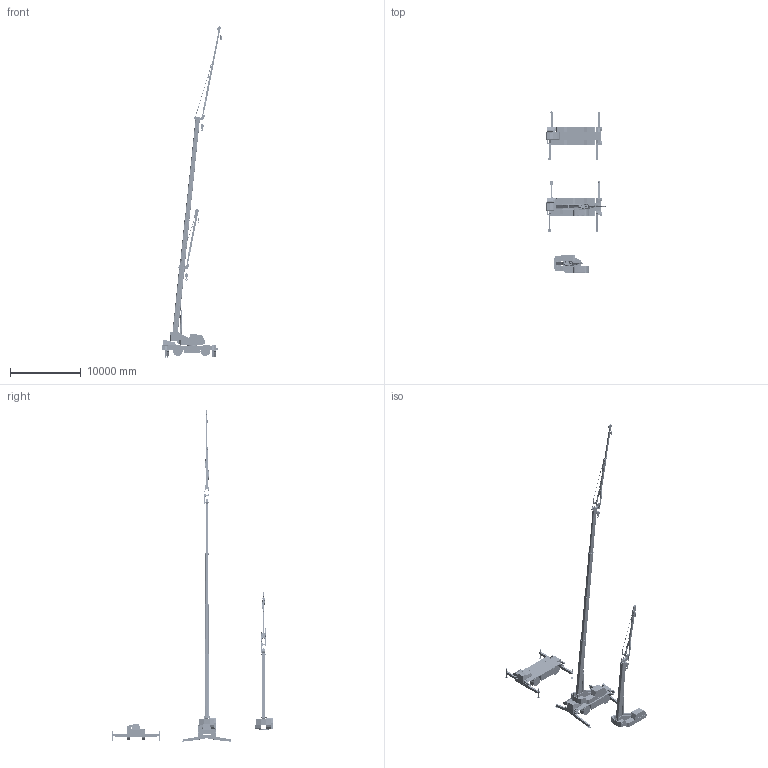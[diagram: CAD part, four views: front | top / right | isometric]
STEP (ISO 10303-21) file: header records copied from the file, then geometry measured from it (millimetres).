
FILE_DESCRIPTION(('CATIA V5 STEP'),'2;1');
FILE_NAME('D:\ENOVIA\Work\GR-250N-5_AP203iso.stp','2021-08-25T04:11:06+00:00',('TDN'),('TADANO'),'CATIA Version 5-6 Release 2018 SP2 HF38','CATIA V5 STEP AP203','none');
FILE_SCHEMA(('CONFIG_CONTROL_DESIGN'));
Products named in the file (9): GR-250N-5; GR-250N-5_Upper_max; GR-250N-5_BoomAssy_max; GR-250N-5_JibAssy_max; GR-250N-5_Upper_min; GR-250N-5_BoomAssy; GR-250N-5_JibAssy; GR-250N-5_Lower_X_max; GR-250N-5_Lower_H_max
Assembly tree (80 placements, depth 4):
  GR-250N-5
    GR-250N-5_Upper_max
      #65
      GR-250N-5_BoomAssy_max
        #192292
        #199640
        #200293
        #200946
      GR-250N-5_JibAssy_max
        #203152
        #203175
        #204766
      #205294
      #210477
      #210909
      #211442
      #212420
      #213332
    GR-250N-5_Upper_min
      #65
      GR-250N-5_BoomAssy
        #192292
        #199640
        #200293
        #200946
      GR-250N-5_JibAssy
        #316707
        #203175
        #204766
      #205294
      #210477
      #210909
      #211442
      #212420
      #213332
    GR-250N-5_Lower_X_max
      #316868
      #318043
      #320964
      #322317
      #325254
      #326177
      #327100  x4
      #327441  x4
      #327829  x4
      #328240  x4
    GR-250N-5_Lower_H_max
      #328971
      #318043
      #320964
      #322317
      #325254
      #326177
      #327100  x4
      #331029  x4
      #331446  x4
      #331589  x4
Bounding box: 8357.12 x 22720 x 46812.43 mm (x, y, z)
Volume: 67766815452.5 mm3; surface area: 593890690.9 mm2
Topology: 246 solids, 246 shells, 20356 faces, 59428 edges, 39656 vertices
Faces by surface type: plane 19656, cylinder 696, cone 4
Entity records: 331825 total; most frequent: CARTESIAN_POINT 63582, ORIENTED_EDGE 59248, DIRECTION 49260, EDGE_CURVE 29624, VECTOR 28832, LINE 28832, VERTEX_POINT 19768, AXIS2_PLACEMENT_3D 10452
